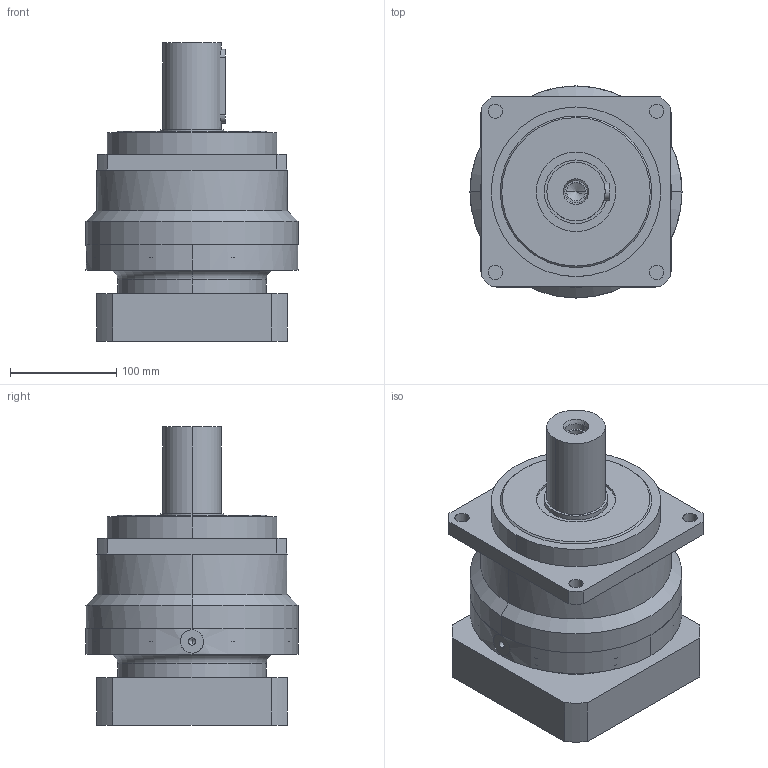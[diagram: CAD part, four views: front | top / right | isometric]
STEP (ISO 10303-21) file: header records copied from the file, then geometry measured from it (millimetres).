
FILE_DESCRIPTION (( 'STEP AP203' ), '1' );
FILE_NAME ('PLM180-L1-35-114.3-200.STEP', '2022-07-05T06:46:59', ( 'Windows User' ), ( 'P R C' ), 'SwSTEP 2.0', 'SolidWorks 2016', '' );
FILE_SCHEMA (( 'CONFIG_CONTROL_DESIGN' ));
Length unit declared in the file: millimetre
Products named in the file (6): 囀鞠褒蹟佪-M10x35; 邧埴瑩 16x10x70; PLM180 一级连接板 180匡 114.3x10 200xM12 45L 目录_D4-114.3 D7-200 D8-M12 A2-180 L5-10 L6-83(45+38) R-117 标准; PLM180 奻裔啣_D1-55 D2-160 D5-215 D6-13.5 L1-82 L2-20 L3-15 L4-105 A1-179 S1-6 S2-70 S3-10 S4-42 B-16 H-59 C-M20 梓袧; PLM180 狟裔啣_D9-200 D3-35 B-10x8 梓袧; PLM180-L1-35-114.3-200
Assembly tree (5 placements, depth 2):
  PLM180-L1-35-114.3-200
    PLM180 奻裔啣_D1-55 D2-160 D5-215 D6-13.5 L1-82 L2-20 L3-15 L4-105 A1-179 S1-6 S2-70 S3-10 S4-42 B-16 H-59 C-M20 梓袧
    PLM180 狟裔啣_D9-200 D3-35 B-10x8 梓袧
    囀鞠褒蹟佪-M10x35
    邧埴瑩 16x10x70
    PLM180 一级连接板 180匡 114.3x10 200xM12 45L 目录_D4-114.3 D7-200 D8-M12 A2-180 L5-10 L6-83(45+38) R-117 标准
Bounding box: 200 x 200 x 281.5 mm (x, y, z)
Volume: 5134992.1 mm3; surface area: 412628.9 mm2
Topology: 5 solids, 5 shells, 1040 faces, 2721 edges, 1773 vertices
Faces by surface type: plane 595, cylinder 213, bspline 174, cone 52, torus 6
Entity records: 39150 total; most frequent: CARTESIAN_POINT 13871, ORIENTED_EDGE 5354, DIRECTION 4616, EDGE_CURVE 2677, VERTEX_POINT 1773, VECTOR 1658, LINE 1658, AXIS2_PLACEMENT_3D 1479
